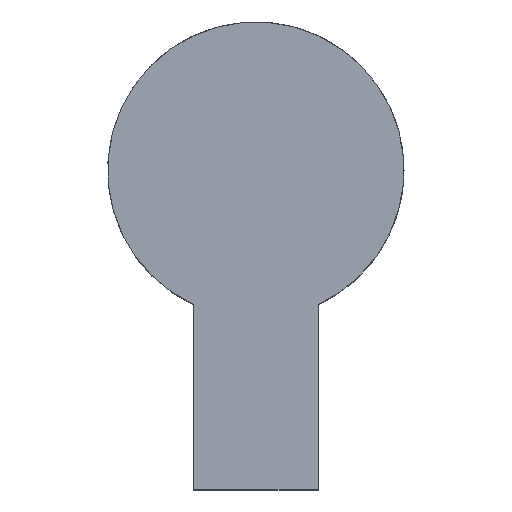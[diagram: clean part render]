
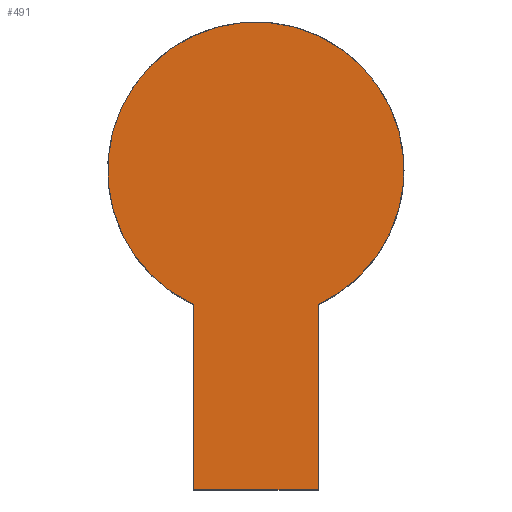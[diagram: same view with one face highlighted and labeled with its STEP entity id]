
A CAD part, top view. The second image highlights one B-rep face of the part: STEP entity #491.
In plain terms, the highlighted planar face has unit normal (0, 0, 1).
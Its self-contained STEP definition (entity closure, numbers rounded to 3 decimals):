
#329=CARTESIAN_POINT('',(4.0,-20.5,0.0));
#330=VERTEX_POINT('',#329);
#331=CARTESIAN_POINT('',(4.,-8.617,0.0));
#332=VERTEX_POINT('',#331);
#333=CARTESIAN_POINT('',(4.0,-20.5,0.0));
#334=DIRECTION('',(0.0,1.0,0.0));
#335=VECTOR('',#334,11.883);
#336=LINE('',#333,#335);
#337=EDGE_CURVE('',#330,#332,#336,.T.);
#369=CARTESIAN_POINT('',(-4.0,-20.5,0.0));
#370=VERTEX_POINT('',#369);
#386=CARTESIAN_POINT('',(-4.0,-20.5,0.0));
#387=DIRECTION('',(1.0,0.0,0.0));
#388=VECTOR('',#387,8.0);
#389=LINE('',#386,#388);
#390=EDGE_CURVE('',#370,#330,#389,.T.);
#400=CARTESIAN_POINT('',(-4.,-8.617,0.0));
#401=VERTEX_POINT('',#400);
#402=CARTESIAN_POINT('',(-4.,-8.617,0.0));
#403=DIRECTION('',(0.0,-1.0,0.0));
#404=VECTOR('',#403,11.883);
#405=LINE('',#402,#404);
#406=EDGE_CURVE('',#401,#370,#405,.T.);
#450=CARTESIAN_POINT('',(0.0,0.0,0.0));
#451=DIRECTION('',(0.0,0.0,-1.0));
#452=DIRECTION('',(-1.0,0.0,0.0));
#453=AXIS2_PLACEMENT_3D('',#450,#451,#452);
#454=CIRCLE('',#453,9.5);
#455=EDGE_CURVE('',#401,#332,#454,.T.);
#480=CARTESIAN_POINT('',(0.0,0.0,0.0));
#481=DIRECTION('',(0.0,0.0,-1.0));
#482=DIRECTION('',(-1.0,0.0,0.0));
#483=AXIS2_PLACEMENT_3D('',#480,#481,#482);
#484=PLANE('',#483);
#485=ORIENTED_EDGE('',*,*,#337,.T.);
#486=ORIENTED_EDGE('',*,*,#455,.F.);
#487=ORIENTED_EDGE('',*,*,#406,.T.);
#488=ORIENTED_EDGE('',*,*,#390,.T.);
#489=EDGE_LOOP('',(#485,#486,#487,#488));
#490=FACE_OUTER_BOUND('',#489,.T.);
#491=ADVANCED_FACE('',(#490),#484,.F.);
